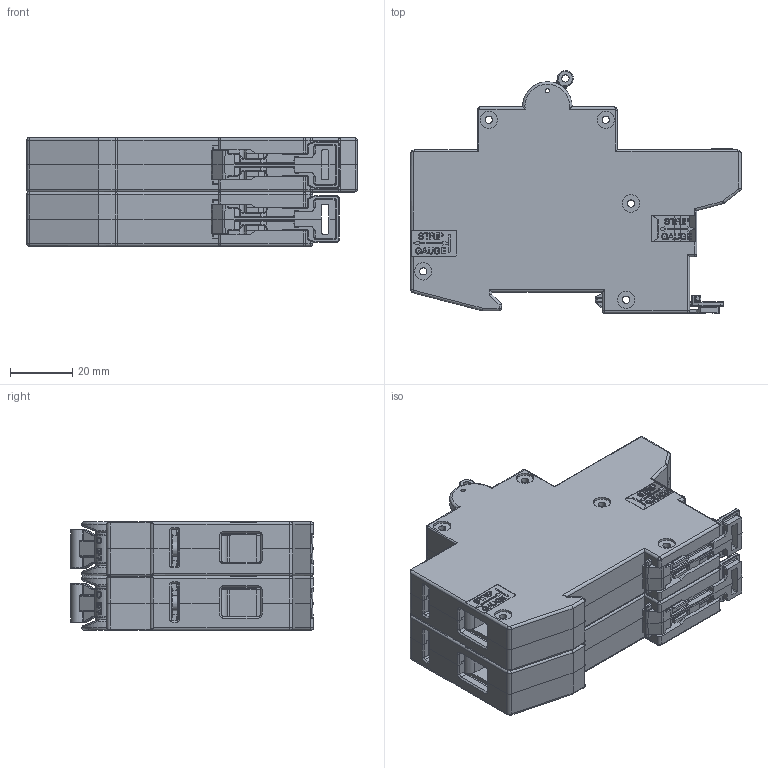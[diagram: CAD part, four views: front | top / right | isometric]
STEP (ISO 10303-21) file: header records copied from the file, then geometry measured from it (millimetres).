
FILE_DESCRIPTION((''),'2;1');
FILE_NAME('C:\Niriawan\Project\3D tekeningen\2012-2p_wrp\2012-2p_wrp.stp','2011-02-18T13:02:25',('oey'),(''),'Autodesk Inventor 2011','Autodesk Inventor 2011','');
FILE_SCHEMA(('AUTOMOTIVE_DESIGN { 1 0 10303 214 1 1 1 1 }'));
Length unit declared in the file: inch
Products named in the file (1): 2012-2p_wrp
Bounding box: 106.38 x 78.17 x 34.95 mm (x, y, z)
Surface area: 79192.4 mm2 (no closed solid volume)
Topology: 0 solids, 52 shells, 4905 faces, 15174 edges, 10048 vertices
Faces by surface type: plane 3043, cylinder 1135, bspline 417, torus 171, cone 77, sphere 62
Full cylindrical faces by diameter (mm): 1.397 x4, 1.651 x2, 1.676 x2, 1.981 x2, 2.235 x2, 2.337 x16, 2.362 x4, 2.388 x2, 2.413 x2, 2.769 x2, 3.175 x4, 3.2 x2, 3.81 x3, 4.42 x4, 4.826 x4, 5.334 x4, 5.588 x20, 6.198 x2, 7.112 x2, 9.473 x2
Entity records: 179252 total; most frequent: CARTESIAN_POINT 46752, ORIENTED_EDGE 26848, DIRECTION 26308, EDGE_CURVE 14984, VECTOR 11234, LINE 11234, VERTEX_POINT 10014, AXIS2_PLACEMENT_3D 7537
